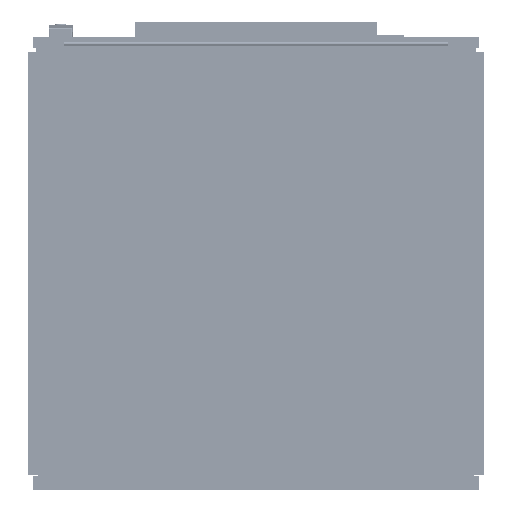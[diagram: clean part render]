
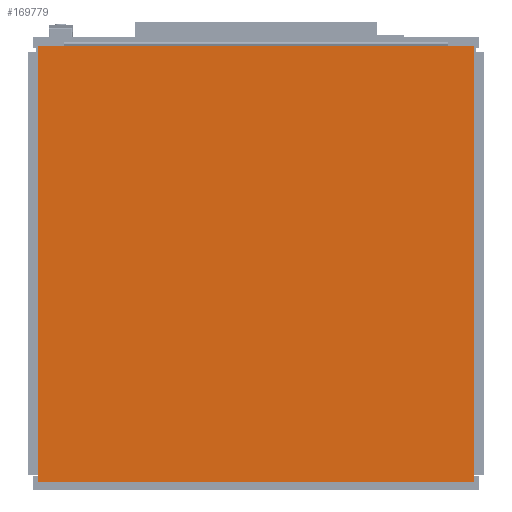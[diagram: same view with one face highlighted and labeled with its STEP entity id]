
A CAD part, front view. The second image highlights one B-rep face of the part: STEP entity #169779.
In plain terms, the highlighted planar face has unit normal (0, -1, 0) as drawn and (0, 0, -1) by its records, which use the part's own axes.
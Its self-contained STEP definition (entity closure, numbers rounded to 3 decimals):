
#169700=DIRECTION('',(0.,-1.,0.));
#169701=VECTOR('',#169700,580.);
#169702=CARTESIAN_POINT('',(-290.,290.,-50.));
#169703=LINE('',#169702,#169701);
#169704=DIRECTION('',(1.,0.,0.));
#169705=VECTOR('',#169704,580.);
#169706=CARTESIAN_POINT('',(-290.,-290.,-50.));
#169707=LINE('',#169706,#169705);
#169708=DIRECTION('',(0.,1.,0.));
#169709=VECTOR('',#169708,580.);
#169710=CARTESIAN_POINT('',(290.,-290.,-50.));
#169711=LINE('',#169710,#169709);
#169712=DIRECTION('',(-1.,0.,0.));
#169713=VECTOR('',#169712,580.);
#169714=CARTESIAN_POINT('',(290.,290.,-50.));
#169715=LINE('',#169714,#169713);
#169748=CARTESIAN_POINT('',(-290.,290.,-50.));
#169749=CARTESIAN_POINT('',(-290.,-290.,-50.));
#169750=VERTEX_POINT('',#169748);
#169751=VERTEX_POINT('',#169749);
#169752=CARTESIAN_POINT('',(290.,-290.,-50.));
#169753=VERTEX_POINT('',#169752);
#169754=CARTESIAN_POINT('',(290.,290.,-50.));
#169755=VERTEX_POINT('',#169754);
#169764=CARTESIAN_POINT('',(0.,0.,-50.));
#169765=DIRECTION('',(0.,0.,1.));
#169766=DIRECTION('',(1.,0.,0.));
#169767=AXIS2_PLACEMENT_3D('',#169764,#169765,#169766);
#169768=PLANE('',#169767);
#169770=ORIENTED_EDGE('',*,*,#169769,.T.);
#169772=ORIENTED_EDGE('',*,*,#169771,.T.);
#169774=ORIENTED_EDGE('',*,*,#169773,.T.);
#169776=ORIENTED_EDGE('',*,*,#169775,.T.);
#169777=EDGE_LOOP('',(#169770,#169772,#169774,#169776));
#169778=FACE_OUTER_BOUND('',#169777,.F.);
#169779=ADVANCED_FACE('',(#169778),#169768,.F.);
#169769=EDGE_CURVE('',#169750,#169751,#169703,.T.);
#169771=EDGE_CURVE('',#169751,#169753,#169707,.T.);
#169773=EDGE_CURVE('',#169753,#169755,#169711,.T.);
#169775=EDGE_CURVE('',#169755,#169750,#169715,.T.);
